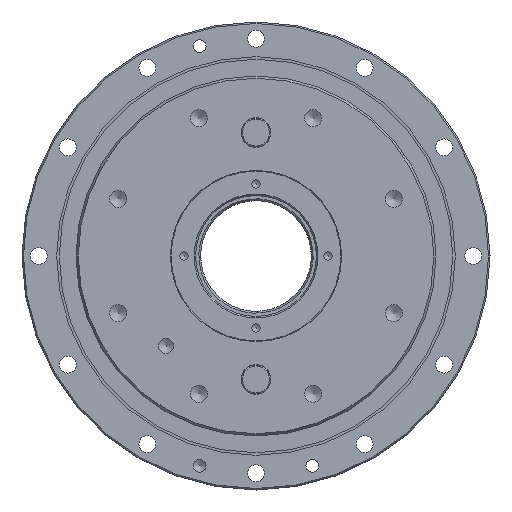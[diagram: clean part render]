
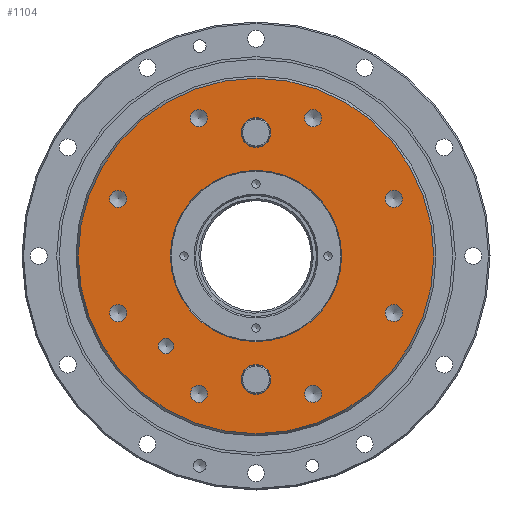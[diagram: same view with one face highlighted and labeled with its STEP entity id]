
A CAD part, left-side view. The second image highlights one B-rep face of the part: STEP entity #1104.
In plain terms, the highlighted planar face has unit normal (-1, 0, 0).
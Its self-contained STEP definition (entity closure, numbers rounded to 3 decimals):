
#891=CARTESIAN_POINT('',(0.,0.,-42.211));
#892=VERTEX_POINT('',#891);
#893=CARTESIAN_POINT('',(0.,0.0,-48.));
#894=DIRECTION('',(-1.0,0.0,0.0));
#895=DIRECTION('',(0.0,0.0,-1.0));
#896=AXIS2_PLACEMENT_3D('',#893,#894,#895);
#897=CIRCLE('',#896,5.789);
#898=EDGE_CURVE('',#892,#892,#897,.T.);
#948=CARTESIAN_POINT('',(0.,0.,53.789));
#949=VERTEX_POINT('',#948);
#950=CARTESIAN_POINT('',(0.,0.0,48.));
#951=DIRECTION('',(-1.0,0.0,0.0));
#952=DIRECTION('',(0.0,0.0,-1.0));
#953=AXIS2_PLACEMENT_3D('',#950,#951,#952);
#954=CIRCLE('',#953,5.789);
#955=EDGE_CURVE('',#949,#949,#954,.T.);
#972=CARTESIAN_POINT('',(0.,51.211,0.0));
#973=DIRECTION('',(-1.0,0.0,0.0));
#974=DIRECTION('',(0.0,0.0,1.0));
#975=AXIS2_PLACEMENT_3D('',#972,#973,#974);
#976=PLANE('',#975);
#977=CARTESIAN_POINT('',(0.,69.134,0.0));
#978=VERTEX_POINT('',#977);
#979=CARTESIAN_POINT('',(0.,0.0,0.0));
#980=DIRECTION('',(1.0,0.0,0.0));
#981=DIRECTION('',(0.0,1.0,0.0));
#982=AXIS2_PLACEMENT_3D('',#979,#980,#981);
#983=CIRCLE('',#982,69.134);
#984=EDGE_CURVE('',#978,#978,#983,.T.);
#985=ORIENTED_EDGE('',*,*,#984,.F.);
#986=EDGE_LOOP('',(#985));
#987=FACE_OUTER_BOUND('',#986,.T.);
#988=ORIENTED_EDGE('',*,*,#898,.F.);
#989=EDGE_LOOP('',(#988));
#990=FACE_BOUND('',#989,.T.);
#991=CARTESIAN_POINT('',(0.,35.0,-32.0));
#992=VERTEX_POINT('',#991);
#993=CARTESIAN_POINT('',(0.,35.0,-35.0));
#994=DIRECTION('',(1.0,0.0,0.0));
#995=DIRECTION('',(0.0,0.0,1.0));
#996=AXIS2_PLACEMENT_3D('',#993,#994,#995);
#997=CIRCLE('',#996,3.);
#998=EDGE_CURVE('',#992,#992,#997,.T.);
#999=ORIENTED_EDGE('',*,*,#998,.T.);
#1000=EDGE_LOOP('',(#999));
#1001=FACE_BOUND('',#1000,.T.);
#1002=CARTESIAN_POINT('',(0.,24.546,-51.235));
#1003=VERTEX_POINT('',#1002);
#1004=CARTESIAN_POINT('',(0.,22.196,-53.585));
#1005=DIRECTION('',(1.0,0.0,0.0));
#1006=DIRECTION('',(0.0,0.707,0.707));
#1007=AXIS2_PLACEMENT_3D('',#1004,#1005,#1006);
#1008=CIRCLE('',#1007,3.324);
#1009=EDGE_CURVE('',#1003,#1003,#1008,.T.);
#1010=ORIENTED_EDGE('',*,*,#1009,.T.);
#1011=EDGE_LOOP('',(#1010));
#1012=FACE_BOUND('',#1011,.T.);
#1013=CARTESIAN_POINT('',(0.,-18.872,-53.585));
#1014=VERTEX_POINT('',#1013);
#1015=CARTESIAN_POINT('',(0.,-22.196,-53.585));
#1016=DIRECTION('',(1.0,0.0,0.0));
#1017=DIRECTION('',(0.0,1.0,0.0));
#1018=AXIS2_PLACEMENT_3D('',#1015,#1016,#1017);
#1019=CIRCLE('',#1018,3.324);
#1020=EDGE_CURVE('',#1014,#1014,#1019,.T.);
#1021=ORIENTED_EDGE('',*,*,#1020,.T.);
#1022=EDGE_LOOP('',(#1021));
#1023=FACE_BOUND('',#1022,.T.);
#1024=CARTESIAN_POINT('',(0.,-51.235,-24.546));
#1025=VERTEX_POINT('',#1024);
#1026=CARTESIAN_POINT('',(0.,-53.585,-22.196));
#1027=DIRECTION('',(1.0,0.0,0.0));
#1028=DIRECTION('',(0.0,0.707,-0.707));
#1029=AXIS2_PLACEMENT_3D('',#1026,#1027,#1028);
#1030=CIRCLE('',#1029,3.324);
#1031=EDGE_CURVE('',#1025,#1025,#1030,.T.);
#1032=ORIENTED_EDGE('',*,*,#1031,.T.);
#1033=EDGE_LOOP('',(#1032));
#1034=FACE_BOUND('',#1033,.T.);
#1035=CARTESIAN_POINT('',(0.,-53.585,18.872));
#1036=VERTEX_POINT('',#1035);
#1037=CARTESIAN_POINT('',(0.,-53.585,22.196));
#1038=DIRECTION('',(1.0,0.0,0.0));
#1039=DIRECTION('',(0.0,0.0,-1.0));
#1040=AXIS2_PLACEMENT_3D('',#1037,#1038,#1039);
#1041=CIRCLE('',#1040,3.324);
#1042=EDGE_CURVE('',#1036,#1036,#1041,.T.);
#1043=ORIENTED_EDGE('',*,*,#1042,.T.);
#1044=EDGE_LOOP('',(#1043));
#1045=FACE_BOUND('',#1044,.T.);
#1046=CARTESIAN_POINT('',(0.,-24.546,51.235));
#1047=VERTEX_POINT('',#1046);
#1048=CARTESIAN_POINT('',(0.,-22.196,53.585));
#1049=DIRECTION('',(1.0,0.0,0.0));
#1050=DIRECTION('',(0.0,-0.707,-0.707));
#1051=AXIS2_PLACEMENT_3D('',#1048,#1049,#1050);
#1052=CIRCLE('',#1051,3.324);
#1053=EDGE_CURVE('',#1047,#1047,#1052,.T.);
#1054=ORIENTED_EDGE('',*,*,#1053,.T.);
#1055=EDGE_LOOP('',(#1054));
#1056=FACE_BOUND('',#1055,.T.);
#1057=CARTESIAN_POINT('',(0.,18.872,53.585));
#1058=VERTEX_POINT('',#1057);
#1059=CARTESIAN_POINT('',(0.,22.196,53.585));
#1060=DIRECTION('',(1.0,0.0,0.0));
#1061=DIRECTION('',(0.0,-1.0,0.0));
#1062=AXIS2_PLACEMENT_3D('',#1059,#1060,#1061);
#1063=CIRCLE('',#1062,3.324);
#1064=EDGE_CURVE('',#1058,#1058,#1063,.T.);
#1065=ORIENTED_EDGE('',*,*,#1064,.T.);
#1066=EDGE_LOOP('',(#1065));
#1067=FACE_BOUND('',#1066,.T.);
#1068=CARTESIAN_POINT('',(0.,51.235,24.546));
#1069=VERTEX_POINT('',#1068);
#1070=CARTESIAN_POINT('',(0.,53.585,22.196));
#1071=DIRECTION('',(1.0,0.0,0.0));
#1072=DIRECTION('',(0.0,-0.707,0.707));
#1073=AXIS2_PLACEMENT_3D('',#1070,#1071,#1072);
#1074=CIRCLE('',#1073,3.324);
#1075=EDGE_CURVE('',#1069,#1069,#1074,.T.);
#1076=ORIENTED_EDGE('',*,*,#1075,.T.);
#1077=EDGE_LOOP('',(#1076));
#1078=FACE_BOUND('',#1077,.T.);
#1079=CARTESIAN_POINT('',(0.,53.585,-18.872));
#1080=VERTEX_POINT('',#1079);
#1081=CARTESIAN_POINT('',(0.,53.585,-22.196));
#1082=DIRECTION('',(1.0,0.0,0.0));
#1083=DIRECTION('',(0.0,0.0,1.0));
#1084=AXIS2_PLACEMENT_3D('',#1081,#1082,#1083);
#1085=CIRCLE('',#1084,3.324);
#1086=EDGE_CURVE('',#1080,#1080,#1085,.T.);
#1087=ORIENTED_EDGE('',*,*,#1086,.T.);
#1088=EDGE_LOOP('',(#1087));
#1089=FACE_BOUND('',#1088,.T.);
#1090=CARTESIAN_POINT('',(0.,33.289,0.0));
#1091=VERTEX_POINT('',#1090);
#1092=CARTESIAN_POINT('',(0.,0.0,0.0));
#1093=DIRECTION('',(1.0,0.0,0.0));
#1094=DIRECTION('',(0.0,1.0,0.0));
#1095=AXIS2_PLACEMENT_3D('',#1092,#1093,#1094);
#1096=CIRCLE('',#1095,33.289);
#1097=EDGE_CURVE('',#1091,#1091,#1096,.T.);
#1098=ORIENTED_EDGE('',*,*,#1097,.T.);
#1099=EDGE_LOOP('',(#1098));
#1100=FACE_BOUND('',#1099,.T.);
#1101=ORIENTED_EDGE('',*,*,#955,.F.);
#1102=EDGE_LOOP('',(#1101));
#1103=FACE_BOUND('',#1102,.T.);
#1104=ADVANCED_FACE('',(#987,#990,#1001,#1012,#1023,#1034,#1045,#1056,#1067,#1078,#1089,#1100,#1103),#976,.T.);
